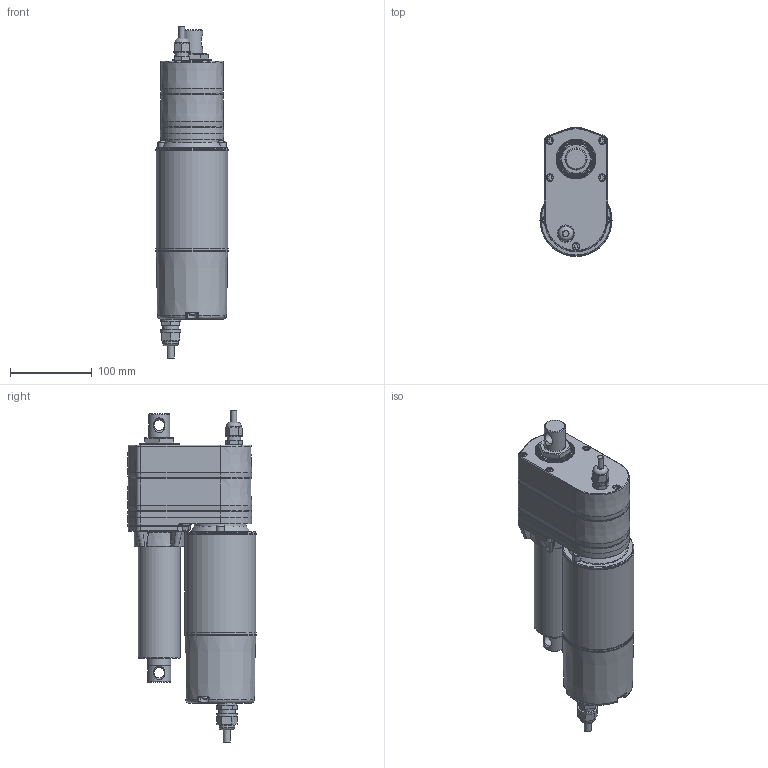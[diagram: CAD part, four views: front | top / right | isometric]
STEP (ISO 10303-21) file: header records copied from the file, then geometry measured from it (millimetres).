
FILE_DESCRIPTION (( 'STEP AP203' ), '1' );
FILE_NAME ('IA5-ACME+POT-102.STEP', '2019-02-27T09:02:19', ( '' ), ( '' ), 'SwSTEP 2.0', 'SolidWorks 2015', '' );
FILE_SCHEMA (( 'CONFIG_CONTROL_DESIGN' ));
Length unit declared in the file: millimetre
Products named in the file (3): IA05-A-1; IA05-A-2; IA5-ACME+POT-102
Assembly tree (2 placements, depth 2):
  IA5-ACME+POT-102
    IA05-A-1
    IA05-A-2
Bounding box: 88 x 157.08 x 405.23 mm (x, y, z)
Volume: 2714467.2 mm3; surface area: 195337.5 mm2
Topology: 2 solids, 2 shells, 1057 faces, 2681 edges, 1665 vertices
Faces by surface type: plane 614, cylinder 185, bspline 106, torus 97, cone 49, sphere 6
Full cylindrical faces by diameter (mm): 7 x4, 8.5 x6, 9 x5, 13 x2, 16.5 x2, 18 x1, 19 x1, 20 x1, 21 x1, 24 x1, 25 x1, 26 x1, 28 x1, 28.1 x1, 28.6 x3, 28.62 x1, 48.2 x1, 50.8 x1, 63.5 x1, 87 x3, 88 x3
Entity records: 35180 total; most frequent: CARTESIAN_POINT 12158, ORIENTED_EDGE 5168, DIRECTION 4284, EDGE_CURVE 2584, VERTEX_POINT 1643, AXIS2_PLACEMENT_3D 1624, EDGE_LOOP 1173, FACE_OUTER_BOUND 1112
